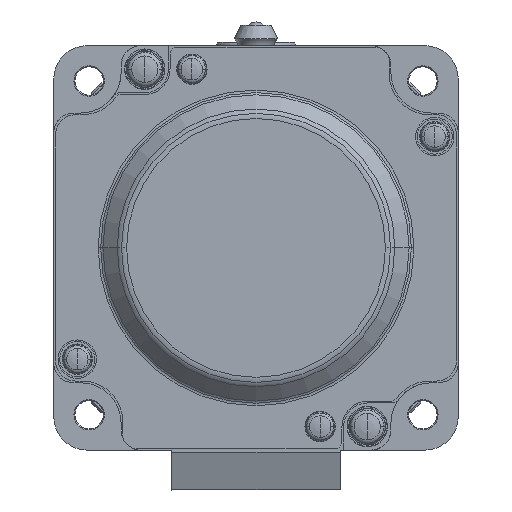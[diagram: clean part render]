
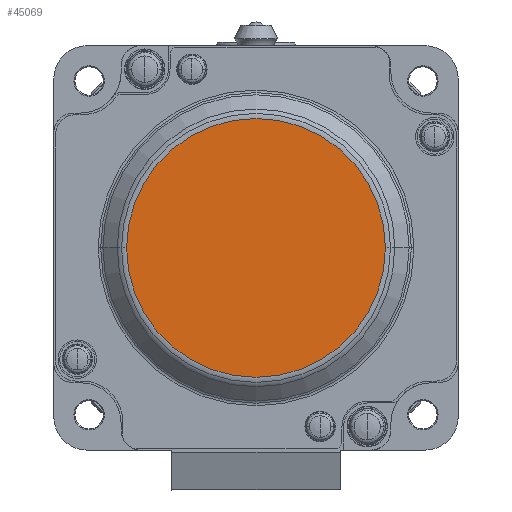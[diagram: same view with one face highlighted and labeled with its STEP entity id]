
A CAD part, front view. The second image highlights one B-rep face of the part: STEP entity #45069.
In plain terms, the highlighted planar face has unit normal (0, -1, 0) as drawn and (-1, 0, 0) by its records, which use the part's own axes.
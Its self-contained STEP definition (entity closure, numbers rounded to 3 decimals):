
#37811=CARTESIAN_POINT('',(-67.5,0.,0.));
#37812=DIRECTION('',(-1.,0.,0.));
#37813=DIRECTION('',(0.,0.,-1.));
#37814=AXIS2_PLACEMENT_3D('',#37811,#37812,#37813);
#37816=CARTESIAN_POINT('',(-67.5,0.,0.));
#37817=DIRECTION('',(-1.,0.,0.));
#37818=DIRECTION('',(0.,0.,1.));
#37819=AXIS2_PLACEMENT_3D('',#37816,#37817,#37818);
#39249=CARTESIAN_POINT('',(-67.5,0.,-19.191));
#39251=VERTEX_POINT('',#39249);
#39255=CARTESIAN_POINT('',(-67.5,0.,19.191));
#39256=VERTEX_POINT('',#39255);
#45059=CARTESIAN_POINT('',(-67.5,-17.,27.));
#45060=DIRECTION('',(1.,0.,0.));
#45061=DIRECTION('',(0.,0.,-1.));
#45062=AXIS2_PLACEMENT_3D('',#45059,#45060,#45061);
#45063=PLANE('',#45062);
#45064=ORIENTED_EDGE('',*,*,#45049,.F.);
#45066=ORIENTED_EDGE('',*,*,#45065,.F.);
#45067=EDGE_LOOP('',(#45064,#45066));
#45068=FACE_OUTER_BOUND('',#45067,.F.);
#45069=ADVANCED_FACE('',(#45068),#45063,.F.);
#37815=CIRCLE('',#37814,19.191);
#37820=CIRCLE('',#37819,19.191);
#45049=EDGE_CURVE('',#39251,#39256,#37815,.T.);
#45065=EDGE_CURVE('',#39256,#39251,#37820,.T.);
